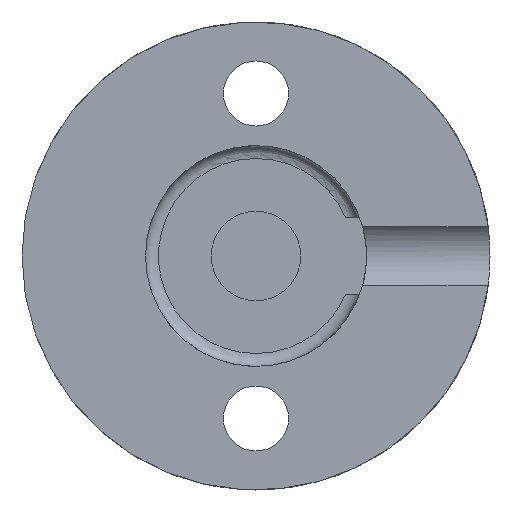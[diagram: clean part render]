
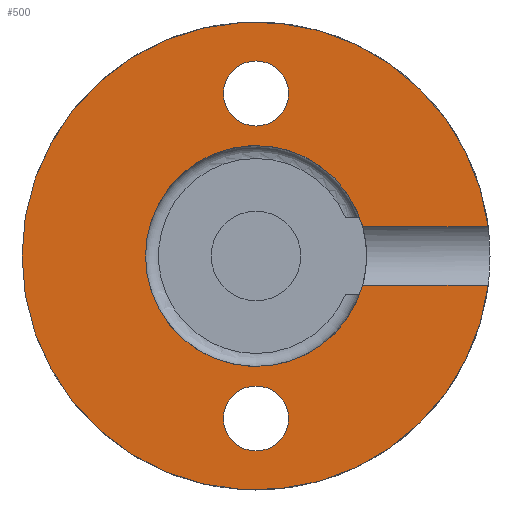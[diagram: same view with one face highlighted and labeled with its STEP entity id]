
A CAD part, front view. The second image highlights one B-rep face of the part: STEP entity #500.
In plain terms, the highlighted planar face has unit normal (0, -1, 0).
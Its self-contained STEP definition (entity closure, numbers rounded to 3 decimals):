
#25=CARTESIAN_POINT('',(0.,0.,0.));
#26=DIRECTION('',(0.,-1.,0.));
#27=DIRECTION('',(0.965,0.,0.263));
#28=AXIS2_PLACEMENT_3D('',#25,#26,#27);
#30=CARTESIAN_POINT('',(0.,0.,0.));
#31=DIRECTION('',(0.,-1.,0.));
#32=DIRECTION('',(-1.,0.,0.));
#33=AXIS2_PLACEMENT_3D('',#30,#31,#32);
#35=CARTESIAN_POINT('',(0.,0.,0.));
#36=DIRECTION('',(0.,1.,0.));
#37=DIRECTION('',(0.992,0.,-0.124));
#38=AXIS2_PLACEMENT_3D('',#35,#36,#37);
#40=CARTESIAN_POINT('',(0.,0.,0.));
#41=DIRECTION('',(0.,1.,0.));
#42=DIRECTION('',(-1.,0.,0.));
#43=AXIS2_PLACEMENT_3D('',#40,#41,#42);
#45=CARTESIAN_POINT('',(0.,0.,-12.5));
#46=DIRECTION('',(0.,-1.,0.));
#47=DIRECTION('',(1.,0.,0.));
#48=AXIS2_PLACEMENT_3D('',#45,#46,#47);
#50=CARTESIAN_POINT('',(0.,0.,-12.5));
#51=DIRECTION('',(0.,-1.,0.));
#52=DIRECTION('',(-1.,0.,0.));
#53=AXIS2_PLACEMENT_3D('',#50,#51,#52);
#55=CARTESIAN_POINT('',(0.,0.,12.5));
#56=DIRECTION('',(0.,-1.,0.));
#57=DIRECTION('',(1.,0.,0.));
#58=AXIS2_PLACEMENT_3D('',#55,#56,#57);
#60=CARTESIAN_POINT('',(0.,0.,12.5));
#61=DIRECTION('',(0.,-1.,0.));
#62=DIRECTION('',(-1.,0.,0.));
#63=AXIS2_PLACEMENT_3D('',#60,#61,#62);
#103=DIRECTION('',(1.,0.,0.));
#104=VECTOR('',#103,9.66);
#105=CARTESIAN_POINT('',(8.201,0.,2.236));
#106=LINE('',#105,#104);
#107=DIRECTION('',(-1.,0.,0.));
#108=VECTOR('',#107,9.66);
#109=CARTESIAN_POINT('',(17.861,0.,
-2.236));
#110=LINE('',#109,#108);
#384=CARTESIAN_POINT('',(8.201,0.,2.236));
#385=CARTESIAN_POINT('',(17.861,0.,2.236));
#386=VERTEX_POINT('',#384);
#387=VERTEX_POINT('',#385);
#388=CARTESIAN_POINT('',(-8.5,0.,0.));
#389=CARTESIAN_POINT('',(8.201,0.,-2.236));
#390=VERTEX_POINT('',#388);
#391=VERTEX_POINT('',#389);
#392=CARTESIAN_POINT('',(17.861,0.,
-2.236));
#393=VERTEX_POINT('',#392);
#394=CARTESIAN_POINT('',(-18.,0.,0.));
#395=VERTEX_POINT('',#394);
#396=CARTESIAN_POINT('',(2.5,0.,-12.5));
#397=CARTESIAN_POINT('',(-2.5,0.,-12.5));
#398=VERTEX_POINT('',#396);
#399=VERTEX_POINT('',#397);
#400=CARTESIAN_POINT('',(2.5,0.,12.5));
#401=CARTESIAN_POINT('',(-2.5,0.,12.5));
#402=VERTEX_POINT('',#400);
#403=VERTEX_POINT('',#401);
#469=CARTESIAN_POINT('',(0.,0.,0.));
#470=DIRECTION('',(0.,1.,0.));
#471=DIRECTION('',(1.,0.,0.));
#472=AXIS2_PLACEMENT_3D('',#469,#470,#471);
#473=PLANE('',#472);
#475=ORIENTED_EDGE('',*,*,#474,.F.);
#477=ORIENTED_EDGE('',*,*,#476,.T.);
#479=ORIENTED_EDGE('',*,*,#478,.T.);
#481=ORIENTED_EDGE('',*,*,#480,.F.);
#483=ORIENTED_EDGE('',*,*,#482,.T.);
#485=ORIENTED_EDGE('',*,*,#484,.T.);
#486=EDGE_LOOP('',(#475,#477,#479,#481,#483,#485));
#487=FACE_OUTER_BOUND('',#486,.F.);
#489=ORIENTED_EDGE('',*,*,#488,.T.);
#491=ORIENTED_EDGE('',*,*,#490,.T.);
#492=EDGE_LOOP('',(#489,#491));
#493=FACE_BOUND('',#492,.F.);
#495=ORIENTED_EDGE('',*,*,#494,.T.);
#497=ORIENTED_EDGE('',*,*,#496,.T.);
#498=EDGE_LOOP('',(#495,#497));
#499=FACE_BOUND('',#498,.F.);
#500=ADVANCED_FACE('',(#487,#493,#499),#473,.F.);
#29=CIRCLE('',#28,8.5);
#34=CIRCLE('',#33,8.5);
#39=CIRCLE('',#38,18.);
#44=CIRCLE('',#43,18.);
#49=CIRCLE('',#48,2.5);
#54=CIRCLE('',#53,2.5);
#59=CIRCLE('',#58,2.5);
#64=CIRCLE('',#63,2.5);
#474=EDGE_CURVE('',#386,#387,#106,.T.);
#476=EDGE_CURVE('',#386,#390,#29,.T.);
#478=EDGE_CURVE('',#390,#391,#34,.T.);
#480=EDGE_CURVE('',#393,#391,#110,.T.);
#482=EDGE_CURVE('',#393,#395,#39,.T.);
#484=EDGE_CURVE('',#395,#387,#44,.T.);
#488=EDGE_CURVE('',#398,#399,#49,.T.);
#490=EDGE_CURVE('',#399,#398,#54,.T.);
#494=EDGE_CURVE('',#402,#403,#59,.T.);
#496=EDGE_CURVE('',#403,#402,#64,.T.);
